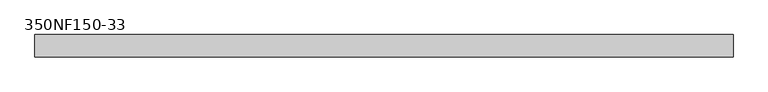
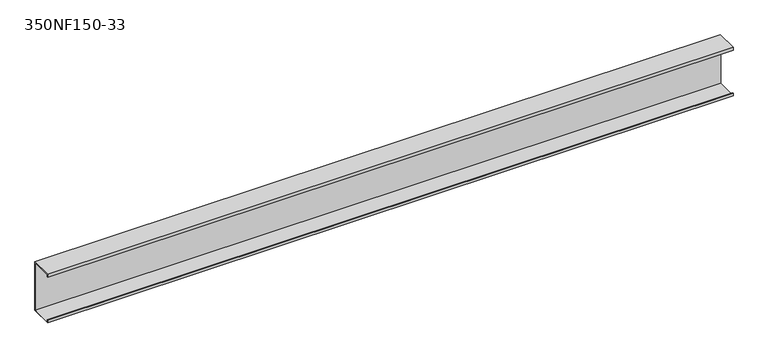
"""IFC4 building model written with IfcOpenShell, lengths in millimetres: beam geometry, BIMSF-SSMA-S : 350NF150-33."""

from ifc_helpers import new_model, si_unit, frame, origin, place, context, project, spatial, polyline, outline, extrude, source, transform, mapped, element, save


def beam_350nf150_33_7715317e(model_context):
    return source(origin(), model_context, "Body", "SweptSolid", [
        extrude(outline(polyline([(19.05, 44.45), (19.05, -44.45), (-19.05, -44.45), (-19.05, -39.6748), (-18.1676842, -39.6748), (-18.1676842, -43.5676842), (18.1676842, -43.5676842), (18.1676842, 43.5676842), (-18.1676842, 43.5676842), (-18.1676842, 39.6748), (-19.05, 39.6748), (-19.05, 44.45), (19.05, 44.45)])), frame((-596.5808964, 0.0, 0.0), z_axis=(1.0, 0.0, 0.0), x_axis=(0.0, 1.0, 0.0)), (0.0, 0.0, 1.0), 1193.1617928),
    ])


if __name__ == "__main__":
    model = new_model("IFC4")
    model_context = context("Model", 3, world=origin())
    ifc_project = project(units=[si_unit("LENGTHUNIT", "METRE", prefix="MILLI")], contexts=[model_context])
    site = spatial("IfcSite", under=ifc_project)
    building = spatial("IfcBuilding", under=site)
    placement = place(None, origin())
    beam_350nf150_33_shape = beam_350nf150_33_7715317e(model_context)
    element("IfcBeam", 1, ObjectType="BIMSF-SSMA-S : 350NF150-33", at=placement, inside=building, context=model_context, shape_type="MappedRepresentation", body=[
        mapped(beam_350nf150_33_shape, transform((0.0, 0.0, 0.0), x_axis=(1.0, 0.0, 0.0), y_axis=(0.0, 1.0, 0.0), z_axis=(0.0, 0.0, 1.0))),
    ])
    save(model, "model.ifc")
